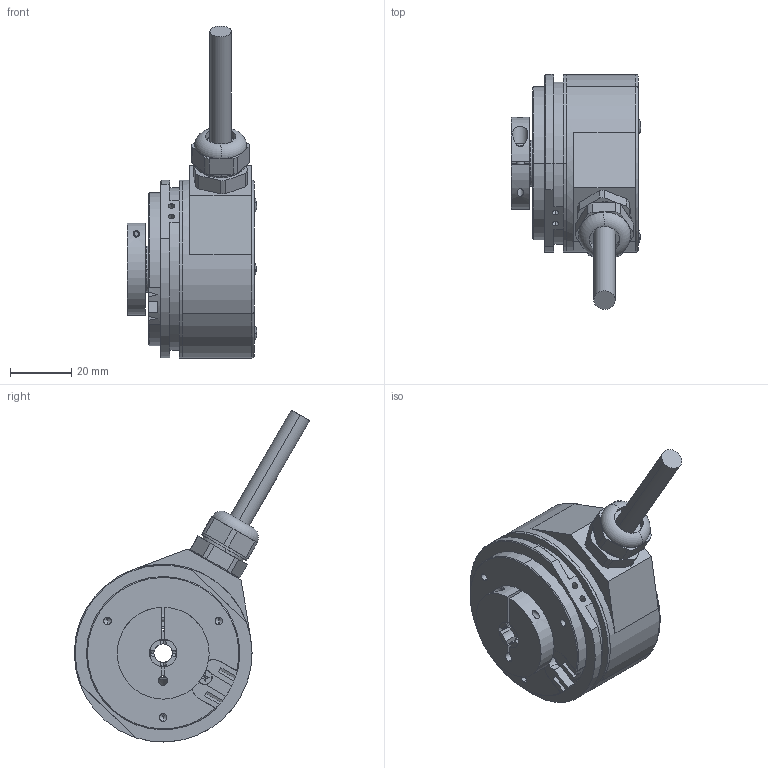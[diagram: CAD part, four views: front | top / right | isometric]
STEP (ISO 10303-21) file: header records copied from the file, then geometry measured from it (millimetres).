
FILE_DESCRIPTION (( 'STEP AP203' ), '1' );
FILE_NAME ('8.5825.13X1.XXXX.STEP', '2012-03-01T14:25:58', ( 'Hodot' ), ( 'Kuebler' ), 'SwSTEP 2.0', 'SolidWorks 2009', '' );
FILE_SCHEMA (( 'CONFIG_CONTROL_DESIGN' ));
Length unit declared in the file: millimetre
Products named in the file (1): 8.5825.13X1.XXXX
Bounding box: 42.38 x 76.82 x 108.34 mm (x, y, z)
Volume: 56998.3 mm3; surface area: 36500.5 mm2
Topology: 15 solids, 15 shells, 504 faces, 1201 edges, 741 vertices
Faces by surface type: plane 190, cylinder 184, cone 92, torus 28, sphere 10
Entity records: 14890 total; most frequent: CARTESIAN_POINT 2931, DIRECTION 2655, ORIENTED_EDGE 2346, EDGE_CURVE 1173, AXIS2_PLACEMENT_3D 1037, VERTEX_POINT 741, VECTOR 581, LINE 581
